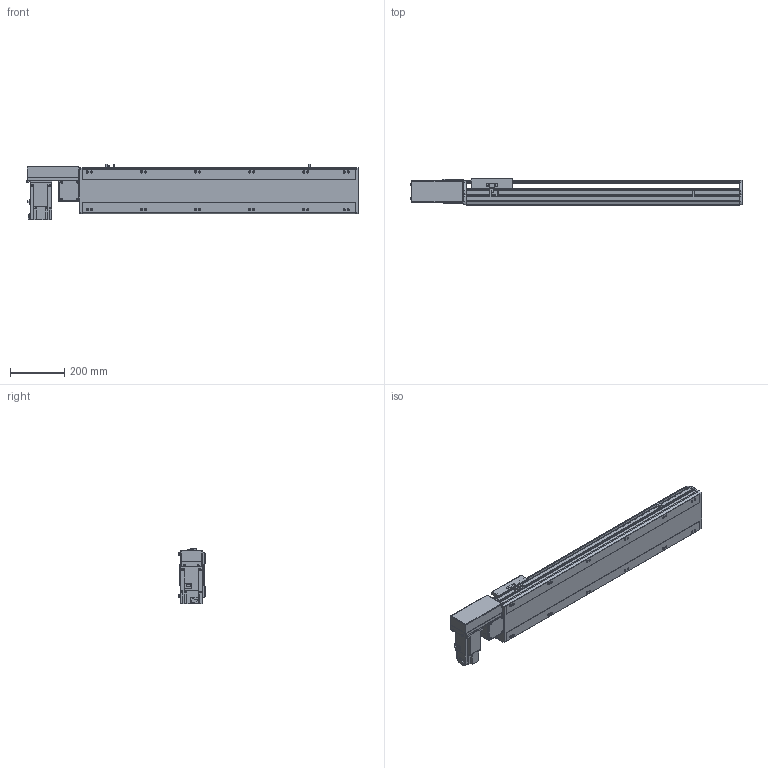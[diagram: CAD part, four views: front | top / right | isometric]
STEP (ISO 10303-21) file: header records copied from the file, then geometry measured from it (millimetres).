
FILE_DESCRIPTION( ( 'STEP AP214' ), '1' );
FILE_NAME( 'x:/temp/worker_4/temp/exporttempdir_2248_259_rbDKg/format_0/PBS170-P40-S750-R-T75-C1-N(0).stp', '2022-06-07T07:29:34', ( 'License CC BY-ND 4.0' ), ( 'CADENAS' ), ' ', 'PARTsolutions', ' ' );
FILE_SCHEMA( ( 'AUTOMOTIVE_DESIGN { 1 0 10303 214 1 1 1 1 }' ) );
Length unit declared in the file: millimetre
Products named in the file (7): PBS170-P40-S750-R-T75-C1-N(0); _PBS170-S750()_body; _PBS170T-R_motors; _T75-p1; _PBS170_sliser; _PBS170_plant; _PBS170_sensor
Assembly tree (8 placements, depth 2):
  PBS170-P40-S750-R-T75-C1-N(0)
    _PBS170-S750()_body
    _PBS170T-R_motors
    _T75-p1
    _PBS170_sliser
    _PBS170_plant
    _PBS170_sensor  x3
Bounding box: 1228 x 97 x 205.3 mm (x, y, z)
Volume: 9209679.8 mm3; surface area: 1225028 mm2
Topology: 8 solids, 8 shells, 1050 faces, 2795 edges, 1822 vertices
Faces by surface type: plane 675, cylinder 323, cone 42, sphere 8, torus 2
Full cylindrical faces by diameter (mm): 3.242 x4, 4 x2, 4.4 x4, 4.5 x6, 4.917 x4, 6 x9, 6.647 x20, 7 x2, 7.5 x4, 8 x8, 8.5 x12, 10 x4, 10.5 x12, 11 x2, 30 x2, 40 x1, 70 x1
Entity records: 38456 total; most frequent: CARTESIAN_POINT 5885, DIRECTION 5160, ORIENTED_EDGE 4908, EDGE_CURVE 2454, AXIS2_PLACEMENT_3D 1777, VERTEX_POINT 1682, LINE 1606, VECTOR 1606
